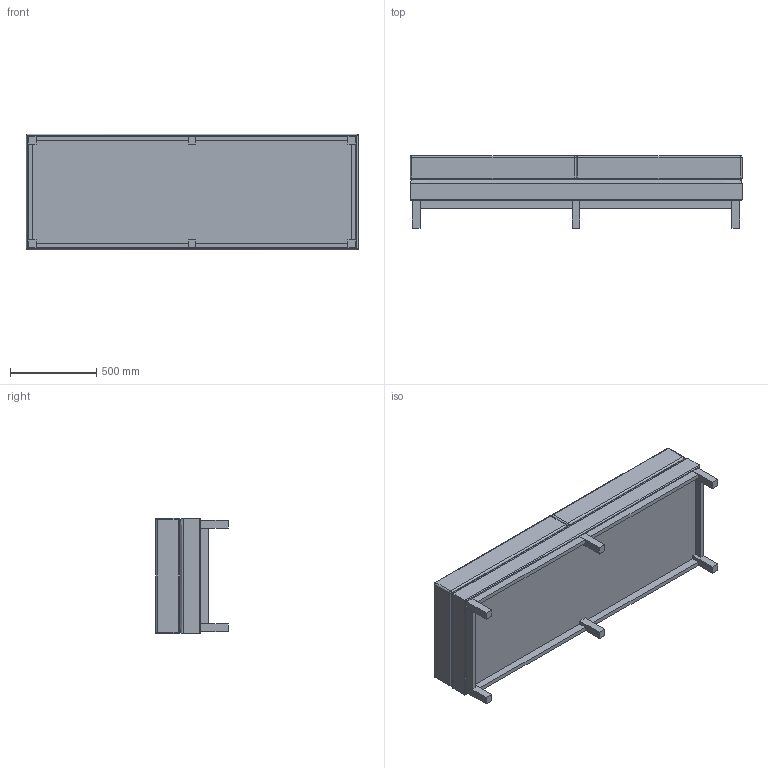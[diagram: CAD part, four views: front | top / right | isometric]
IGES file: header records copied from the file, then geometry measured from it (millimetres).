
Start section: SolidWorks IGES file using analytic representation for surfaces
Global section: file name: P:\3D CAD BLOCKS\ARTHUR CITYSCAPE\Large Bench\IGS\ART-LARGE-BENCH-ART-CITY-BENCH.IGS; native system: SolidWorks 2012; preprocessor: SolidWorks 2012; author: tom; date: 160523.093336; units: millimetre
Bounding box: 1920 x 420 x 670 mm (x, y, z)
Surface area: 7409394.1 mm2 (no closed solid volume)
Topology: 0 solids, 0 shells, 138 faces, 696 edges, 690 vertices
Faces by surface type: bspline 90, revolution 48
